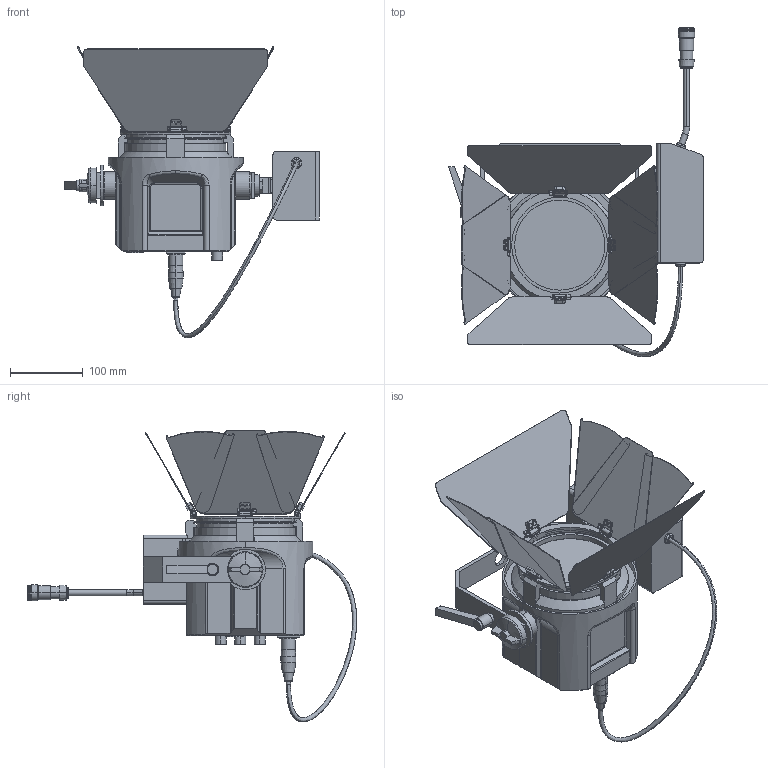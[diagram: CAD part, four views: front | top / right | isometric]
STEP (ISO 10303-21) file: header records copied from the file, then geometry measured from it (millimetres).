
FILE_DESCRIPTION (( 'STEP AP203' ), '1' );
FILE_NAME ('P5F(Clamp-W) Hanging.STEP', '2024-07-11T14:57:29', ( '' ), ( '' ), 'SwSTEP 2.0', 'SolidWorks 2014', '' );
FILE_SCHEMA (( 'CONFIG_CONTROL_DESIGN' ));
Length unit declared in the file: millimetre
Products named in the file (5): P5F(White) - Yoke; PSU 185W Clamp Mount_Hanging (for P5F-W); P5F(Clamp-W) Hanging; 5inch 8-leaf Barndoor (for Clamp-W); P5F(White) - Light Body
Assembly tree (4 placements, depth 2):
  P5F(Clamp-W) Hanging
    P5F(White) - Yoke
    P5F(White) - Light Body
    5inch 8-leaf Barndoor (for Clamp-W)
    PSU 185W Clamp Mount_Hanging (for P5F-W)
Bounding box: 351 x 453.69 x 401.88 mm (x, y, z)
Volume: 4634477.8 mm3; surface area: 582828.9 mm2
Topology: 22 solids, 24 shells, 1155 faces, 2937 edges, 1879 vertices
Faces by surface type: plane 591, cylinder 445, cone 74, bspline 34, torus 11
Entity records: 37936 total; most frequent: CARTESIAN_POINT 9213, DIRECTION 5998, ORIENTED_EDGE 5854, EDGE_CURVE 2927, AXIS2_PLACEMENT_3D 2106, VERTEX_POINT 1879, LINE 1786, VECTOR 1786
